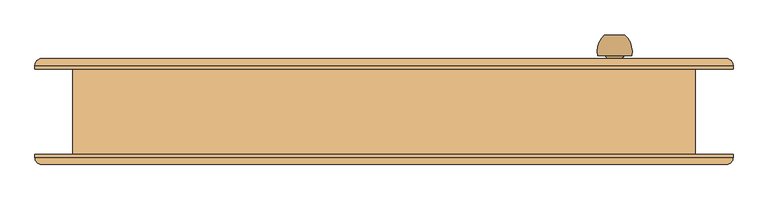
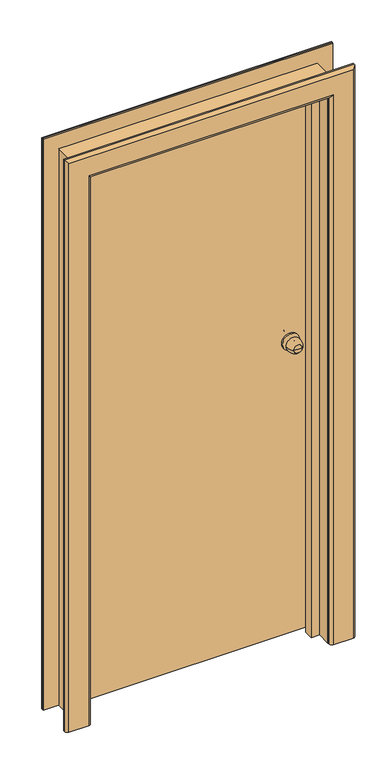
"""IFC4 building model written with IfcOpenShell, lengths in millimetres: door geometry, Внутренняя дверь 1-Навесная - 6629-88 : ДГ 21-9Л  ГОСТ 6629-88."""

from ifc_helpers import new_model, si_unit, point, frame, origin, place, context, project, spatial, polyline, circle_curve, ellipse_curve, trimmed, outline, extrude, faceted_brep, source, transform, mapped, element, save
from ifc_brep_helpers import plane_surface, cylinder_surface, revolved_surface, advanced_brep


def door_6515f566(model_context):
    return source(origin(), model_context, "Body", "SolidModel", [
        advanced_brep(
        [(352.0, 112.5, 1100.0), (337.0, 112.5, 1100.0), (322.0, 112.5, 1100.0), (312.0, 82.5, 1100.0), (362.0, 82.5, 1100.0), (319.0, 82.5, 1100.0), (355.0, 82.5, 1100.0), (327.0, 74.5, 1100.0), (347.0, 74.5, 1100.0), (327.0, 68.5, 1100.0), (347.0, 68.5, 1100.0), (307.0, 68.5, 1100.0), (367.0, 68.5, 1100.0), (307.0, 62.5, 1100.0), (367.0, 62.5, 1100.0)],
        [
            (0, 1),
            (1, 2),
            (2, 0, circle_curve(frame((337.0, 112.5, 1100.0), z_axis=(0.0, 1.0, 0.0), x_axis=(-1.0, 0.0, 0.0)), 15.0)),
            (0, 2, circle_curve(frame((337.0, 112.5, 1100.0), z_axis=(0.0, 1.0, 0.0), x_axis=(-1.0, 0.0, 0.0)), 15.0)),
            (2, 3, circle_curve(frame((346.6226265, 87.6257912, 1100.0), z_axis=(0.0, 0.0, 1.0), x_axis=(1.0, 0.0, 0.0)), 35.0)),
            (3, 4, circle_curve(frame((337.0, 82.5, 1100.0), z_axis=(0.0, 1.0, 0.0), x_axis=(-1.0, 0.0, 0.0)), 25.0)),
            (4, 0, circle_curve(frame((327.3773735, 87.6257912, 1100.0), z_axis=(0.0, 0.0, 1.0), x_axis=(-1.0, 0.0, 0.0)), 35.0)),
            (4, 3, circle_curve(frame((337.0, 82.5, 1100.0), z_axis=(0.0, 1.0, 0.0), x_axis=(-1.0, 0.0, 0.0)), 25.0)),
            (3, 5),
            (5, 6, circle_curve(frame((337.0, 82.5, 1100.0), z_axis=(0.0, 1.0, 0.0), x_axis=(-1.0, 0.0, 0.0)), 18.0)),
            (6, 4),
            (6, 5, circle_curve(frame((337.0, 82.5, 1100.0), z_axis=(0.0, 1.0, 0.0), x_axis=(-1.0, 0.0, 0.0)), 18.0)),
            (5, 7, circle_curve(frame((319.0, 74.5, 1100.0), z_axis=(0.0, 0.0, -1.0), x_axis=(1.0, 0.0, 0.0)), 8.0)),
            (7, 8, circle_curve(frame((337.0, 74.5, 1100.0), z_axis=(0.0, 1.0, 0.0), x_axis=(-1.0, 0.0, 0.0)), 10.0)),
            (8, 6, circle_curve(frame((355.0, 74.5, 1100.0), z_axis=(0.0, 0.0, -1.0), x_axis=(-1.0, 0.0, 0.0)), 8.0)),
            (8, 7, circle_curve(frame((337.0, 74.5, 1100.0), z_axis=(0.0, 1.0, 0.0), x_axis=(-1.0, 0.0, 0.0)), 10.0)),
            (7, 9),
            (9, 10, circle_curve(frame((337.0, 68.5, 1100.0), z_axis=(0.0, 1.0, 0.0), x_axis=(-1.0, 0.0, 0.0)), 10.0)),
            (10, 8),
            (10, 9, circle_curve(frame((337.0, 68.5, 1100.0), z_axis=(0.0, 1.0, 0.0), x_axis=(-1.0, 0.0, 0.0)), 10.0)),
            (11, 12, circle_curve(frame((337.0, 68.5, 1100.0), z_axis=(0.0, 1.0, 0.0), x_axis=(1.0, 0.0, 0.0)), 30.0)),
            (12, 11, circle_curve(frame((337.0, 68.5, 1100.0), z_axis=(0.0, 1.0, 0.0), x_axis=(1.0, 0.0, 0.0)), 30.0)),
            (13, 14, circle_curve(frame((337.0, 62.5, 1100.0), z_axis=(0.0, -1.0, 0.0), x_axis=(1.0, 0.0, 0.0)), 30.0)),
            (14, 13, circle_curve(frame((337.0, 62.5, 1100.0), z_axis=(0.0, -1.0, 0.0), x_axis=(1.0, 0.0, 0.0)), 30.0)),
            (12, 14),
            (13, 11),
        ],
        [
            plane_surface(frame((337.0, 112.5, 1100.0), z_axis=(0.0, 1.0, 0.0), x_axis=(-1.0, 0.0, 0.0))),
            revolved_surface(trimmed(ellipse_curve(frame((346.6226265, 87.6257912, 1100.0), z_axis=(0.0, 0.0, 1.0), x_axis=(1.0, 0.0, 0.0)), 35.0, 35.0), [point((322.0, 112.5, 1100.0))], [point((312.0, 82.5, 1100.0))], True, "CARTESIAN"), (337.0, 142.5, 1100.0), (0.0, -1.0, 0.0)),
            plane_surface(frame((337.0, 82.5, 1100.0), z_axis=(0.0, -1.0, 0.0), x_axis=(-1.0, 0.0, 0.0))),
            revolved_surface(trimmed(ellipse_curve(frame((319.0, 74.5, 1100.0), z_axis=(0.0, 0.0, -1.0), x_axis=(1.0, 0.0, 0.0)), 8.0, 8.0), [point((319.0, 82.5, 1100.0))], [point((327.0, 74.5, 1100.0))], True, "CARTESIAN"), (337.0, 142.5, 1100.0), (0.0, -1.0, 0.0)),
            cylinder_surface(frame((337.0, 142.5, 1100.0), z_axis=(0.0, -1.0, 0.0), x_axis=(-1.0, 0.0, 0.0)), 10.0),
            plane_surface(frame((367.0, 68.5, 1100.0), z_axis=(0.0, 1.0, 0.0), x_axis=(0.0, 0.0, 1.0))),
            plane_surface(frame((367.0, 62.5, 1100.0), z_axis=(0.0, -1.0, 0.0), x_axis=(0.0, 0.0, -1.0))),
            cylinder_surface(frame((337.0, 62.5, 1100.0), z_axis=(0.0, 1.0, 0.0), x_axis=(1.0, 0.0, 0.0)), 30.0),
        ],
        [
            (0, [[1, 2, 3]]),
            (0, [[-1, 4, -2]]),
            (1, [[5, 6, 7, -3]]),
            (1, [[-7, 8, -5, -4]]),
            (2, [[9, 10, 11, -6]]),
            (2, [[-11, 12, -9, -8]]),
            (3, [[13, 14, 15, -10]]),
            (3, [[-15, 16, -13, -12]]),
            (4, [[17, 18, 19, -14]]),
            (4, [[-19, 20, -17, -16]]),
            (5, [[21, 22], [-20, -18]]),
            (6, [[23, 24]]),
            (7, [[25, -23, 26, -22]]),
            (7, [[-26, -24, -25, -21]]),
        ],
    ),
        advanced_brep(
        [(322.0, -24.5, 1100.0), (337.0, -24.5, 1100.0), (352.0, -24.5, 1100.0), (362.0, 5.5, 1100.0), (312.0, 5.5, 1100.0), (355.0, 5.5, 1100.0), (319.0, 5.5, 1100.0), (347.0, 13.5, 1100.0), (327.0, 13.5, 1100.0), (347.0, 19.5, 1100.0), (327.0, 19.5, 1100.0), (367.0, 19.5, 1100.0), (307.0, 19.5, 1100.0), (367.0, 25.5, 1100.0), (307.0, 25.5, 1100.0)],
        [
            (0, 1),
            (1, 2),
            (2, 0, circle_curve(frame((337.0, -24.5, 1100.0), z_axis=(0.0, -1.0, 0.0), x_axis=(1.0, 0.0, 0.0)), 15.0)),
            (0, 2, circle_curve(frame((337.0, -24.5, 1100.0), z_axis=(0.0, -1.0, 0.0), x_axis=(1.0, 0.0, 0.0)), 15.0)),
            (2, 3, circle_curve(frame((327.3773735, 0.3742088, 1100.0), z_axis=(0.0, 0.0, 1.0), x_axis=(-1.0, 0.0, 0.0)), 35.0)),
            (3, 4, circle_curve(frame((337.0, 5.5, 1100.0), z_axis=(0.0, -1.0, 0.0), x_axis=(1.0, 0.0, 0.0)), 25.0)),
            (4, 0, circle_curve(frame((346.6226265, 0.3742088, 1100.0), z_axis=(0.0, 0.0, 1.0), x_axis=(1.0, 0.0, 0.0)), 35.0)),
            (4, 3, circle_curve(frame((337.0, 5.5, 1100.0), z_axis=(0.0, -1.0, 0.0), x_axis=(1.0, 0.0, 0.0)), 25.0)),
            (3, 5),
            (5, 6, circle_curve(frame((337.0, 5.5, 1100.0), z_axis=(0.0, -1.0, 0.0), x_axis=(1.0, 0.0, 0.0)), 18.0)),
            (6, 4),
            (6, 5, circle_curve(frame((337.0, 5.5, 1100.0), z_axis=(0.0, -1.0, 0.0), x_axis=(1.0, 0.0, 0.0)), 18.0)),
            (5, 7, circle_curve(frame((355.0, 13.5, 1100.0), z_axis=(0.0, 0.0, -1.0), x_axis=(-1.0, 0.0, 0.0)), 8.0)),
            (7, 8, circle_curve(frame((337.0, 13.5, 1100.0), z_axis=(0.0, -1.0, 0.0), x_axis=(1.0, 0.0, 0.0)), 10.0)),
            (8, 6, circle_curve(frame((319.0, 13.5, 1100.0), z_axis=(0.0, 0.0, -1.0), x_axis=(1.0, 0.0, 0.0)), 8.0)),
            (8, 7, circle_curve(frame((337.0, 13.5, 1100.0), z_axis=(0.0, -1.0, 0.0), x_axis=(1.0, 0.0, 0.0)), 10.0)),
            (7, 9),
            (9, 10, circle_curve(frame((337.0, 19.5, 1100.0), z_axis=(0.0, -1.0, 0.0), x_axis=(1.0, 0.0, 0.0)), 10.0)),
            (10, 8),
            (10, 9, circle_curve(frame((337.0, 19.5, 1100.0), z_axis=(0.0, -1.0, 0.0), x_axis=(1.0, 0.0, 0.0)), 10.0)),
            (11, 12, circle_curve(frame((337.0, 19.5, 1100.0), z_axis=(0.0, -1.0, 0.0), x_axis=(-1.0, 0.0, 0.0)), 30.0)),
            (12, 11, circle_curve(frame((337.0, 19.5, 1100.0), z_axis=(0.0, -1.0, 0.0), x_axis=(-1.0, 0.0, 0.0)), 30.0)),
            (13, 14, circle_curve(frame((337.0, 25.5, 1100.0), z_axis=(0.0, 1.0, 0.0), x_axis=(-1.0, 0.0, 0.0)), 30.0)),
            (14, 13, circle_curve(frame((337.0, 25.5, 1100.0), z_axis=(0.0, 1.0, 0.0), x_axis=(-1.0, 0.0, 0.0)), 30.0)),
            (12, 14),
            (13, 11),
        ],
        [
            plane_surface(frame((337.0, -24.5, 1100.0), z_axis=(0.0, -1.0, 0.0), x_axis=(1.0, 0.0, 0.0))),
            revolved_surface(trimmed(ellipse_curve(frame((327.3773735, 0.3742088, 1100.0), z_axis=(0.0, 0.0, 1.0), x_axis=(-1.0, 0.0, 0.0)), 35.0, 35.0), [point((352.0, -24.5, 1100.0))], [point((362.0, 5.5, 1100.0))], True, "CARTESIAN"), (337.0, -54.5, 1100.0), (0.0, 1.0, 0.0)),
            plane_surface(frame((337.0, 5.5, 1100.0), z_axis=(0.0, 1.0, 0.0), x_axis=(1.0, 0.0, 0.0))),
            revolved_surface(trimmed(ellipse_curve(frame((355.0, 13.5, 1100.0), z_axis=(0.0, 0.0, -1.0), x_axis=(-1.0, 0.0, 0.0)), 8.0, 8.0), [point((355.0, 5.5, 1100.0))], [point((347.0, 13.5, 1100.0))], True, "CARTESIAN"), (337.0, -54.5, 1100.0), (0.0, 1.0, 0.0)),
            cylinder_surface(frame((337.0, -54.5, 1100.0), z_axis=(0.0, 1.0, 0.0), x_axis=(1.0, 0.0, 0.0)), 10.0),
            plane_surface(frame((307.0, 19.5, 1100.0), z_axis=(0.0, -1.0, 0.0), x_axis=(0.0, 0.0, 1.0))),
            plane_surface(frame((307.0, 25.5, 1100.0), z_axis=(0.0, 1.0, 0.0), x_axis=(0.0, 0.0, -1.0))),
            cylinder_surface(frame((337.0, 25.5, 1100.0), z_axis=(0.0, -1.0, 0.0), x_axis=(-1.0, 0.0, 0.0)), 30.0),
        ],
        [
            (0, [[1, 2, 3]]),
            (0, [[-1, 4, -2]]),
            (1, [[5, 6, 7, -3]]),
            (1, [[-7, 8, -5, -4]]),
            (2, [[9, 10, 11, -6]]),
            (2, [[-11, 12, -9, -8]]),
            (3, [[13, 14, 15, -10]]),
            (3, [[-15, 16, -13, -12]]),
            (4, [[17, 18, 19, -14]]),
            (4, [[-19, 20, -17, -16]]),
            (5, [[21, 22], [-20, -18]]),
            (6, [[23, 24]]),
            (7, [[25, -23, 26, -22]]),
            (7, [[-26, -24, -25, -21]]),
        ],
    ),
        extrude(outline(polyline([(0.0, 435.0), (2050.0, 435.0), (2050.0, -435.0), (0.0, -435.0), (0.0, -420.0), (2035.0, -420.0), (2035.0, 420.0), (0.0, 420.0), (0.0, 435.0)])), frame((0.0, -62.5, 0.0), z_axis=(0.0, 1.0, 0.0), x_axis=(0.0, 0.0, 1.0)), (0.0, 0.0, 1.0), 51.0),
        advanced_brep(
        [(-510.0, 62.5, 0.0), (-510.0, 67.5, 0.0), (-500.0, 77.5, 0.0), (-430.0, 77.5, 0.0), (-420.0, 67.5, 0.0), (-420.0, 62.5, 0.0), (-420.0, 62.5, 2035.0), (420.0, 62.5, 2035.0), (420.0, 62.5, 0.0), (510.0, 62.5, 0.0), (510.0, 62.5, 2125.0), (-510.0, 62.5, 2125.0), (-420.0, 67.5, 2035.0), (-430.0, 77.5, 2045.0), (-500.0, 77.5, 2115.0), (500.0, 77.5, 2115.0), (500.0, 77.5, 0.0), (430.0, 77.5, 0.0), (430.0, 77.5, 2045.0), (-510.0, 67.5, 2125.0), (510.0, 67.5, 0.0), (510.0, 67.5, 2125.0), (420.0, 67.5, 0.0), (420.0, 67.5, 2035.0)],
        [
            (0, 1),
            (1, 2, circle_curve(frame((-500.0, 67.5, 0.0), z_axis=(0.0, 0.0, -1.0), x_axis=(-1.0, 0.0, 0.0)), 10.0)),
            (2, 3),
            (3, 4, circle_curve(frame((-430.0, 67.5, 0.0), z_axis=(0.0, 0.0, -1.0), x_axis=(-1.0, 0.0, 0.0)), 10.0)),
            (4, 5),
            (5, 0),
            (5, 6),
            (6, 7),
            (7, 8),
            (8, 9),
            (9, 10),
            (10, 11),
            (11, 0),
            (4, 12),
            (12, 6),
            (3, 13),
            (13, 12, ellipse_curve(frame((-430.0, 67.5, 2045.0), z_axis=(-0.7071067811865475, 0.0, -0.7071067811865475), x_axis=(0.7071067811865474, 0.0, -0.7071067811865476)), 14.1421356, 10.0)),
            (2, 14),
            (14, 15),
            (15, 16),
            (16, 17),
            (17, 18),
            (18, 13),
            (1, 19),
            (19, 14, ellipse_curve(frame((-500.0, 67.5, 2115.0), z_axis=(-0.7071067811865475, 0.0, -0.7071067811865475), x_axis=(0.7071067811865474, 0.0, -0.7071067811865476)), 14.1421356, 10.0)),
            (11, 19),
            (9, 20),
            (20, 21),
            (21, 10),
            (8, 22),
            (22, 17, circle_curve(frame((430.0, 67.5, 0.0), z_axis=(0.0, 0.0, -1.0), x_axis=(1.0, 0.0, 0.0)), 10.0)),
            (16, 20, circle_curve(frame((500.0, 67.5, 0.0), z_axis=(0.0, 0.0, -1.0), x_axis=(1.0, 0.0, 0.0)), 10.0)),
            (23, 22),
            (7, 23),
            (23, 18, ellipse_curve(frame((430.0, 67.5, 2045.0), z_axis=(0.7071067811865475, 0.0, -0.7071067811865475), x_axis=(0.7071067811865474, 0.0, 0.7071067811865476)), 14.1421356, 10.0)),
            (15, 21, ellipse_curve(frame((500.0, 67.5, 2115.0), z_axis=(0.7071067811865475, 0.0, -0.7071067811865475), x_axis=(0.7071067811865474, 0.0, 0.7071067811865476)), 14.1421356, 10.0)),
            (12, 23),
            (19, 21),
        ],
        [
            plane_surface(frame((-455.0, 62.5, 0.0), z_axis=(0.0, 0.0, -1.0), x_axis=(0.0, -1.0, 0.0))),
            plane_surface(frame((-510.0, 62.5, 0.0), z_axis=(0.0, -1.0, 0.0), x_axis=(0.0, 0.0, 1.0))),
            plane_surface(frame((-420.0, 62.5, 0.0), z_axis=(1.0, 0.0, 0.0), x_axis=(0.0, 0.0, 1.0))),
            cylinder_surface(frame((-430.0, 67.5, 0.0), z_axis=(0.0, 0.0, -1.0), x_axis=(-1.0, 0.0, 0.0)), 10.0),
            plane_surface(frame((-430.0, 77.5, 0.0), z_axis=(0.0, 1.0, 0.0), x_axis=(0.0, 0.0, 1.0))),
            cylinder_surface(frame((-500.0, 67.5, 0.0), z_axis=(0.0, 0.0, -1.0), x_axis=(-1.0, 0.0, 0.0)), 10.0),
            plane_surface(frame((-510.0, 67.5, 0.0), z_axis=(-1.0, 0.0, 0.0), x_axis=(0.0, 0.0, 1.0))),
            plane_surface(frame((510.0, 67.5, 2125.0), z_axis=(1.0, 0.0, 0.0), x_axis=(0.0, 0.0, -1.0))),
            plane_surface(frame((455.0, 62.5, 0.0), z_axis=(0.0, 0.0, -1.0), x_axis=(0.0, -1.0, 0.0))),
            plane_surface(frame((420.0, 62.5, 2035.0), z_axis=(-1.0, 0.0, 0.0), x_axis=(0.0, 0.0, -1.0))),
            cylinder_surface(frame((430.0, 67.5, 2070.0), z_axis=(0.0, 0.0, 1.0), x_axis=(1.0, 0.0, 0.0)), 10.0),
            cylinder_surface(frame((500.0, 67.5, 2070.0), z_axis=(0.0, 0.0, 1.0), x_axis=(1.0, 0.0, 0.0)), 10.0),
            plane_surface(frame((-420.0, 62.5, 2035.0), z_axis=(0.0, 0.0, -1.0), x_axis=(1.0, 0.0, 0.0))),
            cylinder_surface(frame((-455.0, 67.5, 2045.0), z_axis=(-1.0, 0.0, 0.0), x_axis=(0.0, 0.0, 1.0)), 10.0),
            cylinder_surface(frame((-455.0, 67.5, 2115.0), z_axis=(-1.0, 0.0, 0.0), x_axis=(0.0, 0.0, 1.0)), 10.0),
            plane_surface(frame((-510.0, 67.5, 2125.0), z_axis=(0.0, 0.0, 1.0), x_axis=(1.0, 0.0, 0.0))),
        ],
        [
            (0, [[1, 2, 3, 4, 5, 6]]),
            (1, [[7, 8, 9, 10, 11, 12, 13, -6]]),
            (2, [[14, 15, -7, -5]]),
            (3, [[16, 17, -14, -4]]),
            (4, [[18, 19, 20, 21, 22, 23, -16, -3]]),
            (5, [[24, 25, -18, -2]]),
            (6, [[-13, 26, -24, -1]]),
            (7, [[-11, 27, 28, 29]]),
            (8, [[-10, 30, 31, -21, 32, -27]]),
            (9, [[33, -30, -9, 34]]),
            (10, [[-22, -31, -33, 35]]),
            (11, [[-28, -32, -20, 36]]),
            (12, [[37, -34, -8, -15]]),
            (13, [[-23, -35, -37, -17]]),
            (14, [[38, -36, -19, -25]]),
            (15, [[-12, -29, -38, -26]]),
        ],
    ),
        advanced_brep(
        [(510.0, -62.5, 0.0), (510.0, -67.5, 0.0), (500.0, -77.5, 0.0), (430.0, -77.5, 0.0), (420.0, -67.5, 0.0), (420.0, -62.5, 0.0), (420.0, -62.5, 2035.0), (-420.0, -62.5, 2035.0), (-420.0, -62.5, 0.0), (-510.0, -62.5, 0.0), (-510.0, -62.5, 2125.0), (510.0, -62.5, 2125.0), (420.0, -67.5, 2035.0), (430.0, -77.5, 2045.0), (500.0, -77.5, 2115.0), (-500.0, -77.5, 2115.0), (-500.0, -77.5, 0.0), (-430.0, -77.5, 0.0), (-430.0, -77.5, 2045.0), (510.0, -67.5, 2125.0), (-510.0, -67.5, 0.0), (-510.0, -67.5, 2125.0), (-420.0, -67.5, 0.0), (-420.0, -67.5, 2035.0)],
        [
            (0, 1),
            (1, 2, circle_curve(frame((500.0, -67.5, 0.0), z_axis=(0.0, 0.0, -1.0), x_axis=(1.0, 0.0, 0.0)), 10.0)),
            (2, 3),
            (3, 4, circle_curve(frame((430.0, -67.5, 0.0), z_axis=(0.0, 0.0, -1.0), x_axis=(1.0, 0.0, 0.0)), 10.0)),
            (4, 5),
            (5, 0),
            (5, 6),
            (6, 7),
            (7, 8),
            (8, 9),
            (9, 10),
            (10, 11),
            (11, 0),
            (4, 12),
            (12, 6),
            (3, 13),
            (13, 12, ellipse_curve(frame((430.0, -67.5, 2045.0), z_axis=(0.7071067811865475, 0.0, -0.7071067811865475), x_axis=(-0.7071067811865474, 0.0, -0.7071067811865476)), 14.1421356, 10.0)),
            (2, 14),
            (14, 15),
            (15, 16),
            (16, 17),
            (17, 18),
            (18, 13),
            (1, 19),
            (19, 14, ellipse_curve(frame((500.0, -67.5, 2115.0), z_axis=(0.7071067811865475, 0.0, -0.7071067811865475), x_axis=(-0.7071067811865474, 0.0, -0.7071067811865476)), 14.1421356, 10.0)),
            (11, 19),
            (9, 20),
            (20, 21),
            (21, 10),
            (8, 22),
            (22, 17, circle_curve(frame((-430.0, -67.5, 0.0), z_axis=(0.0, 0.0, -1.0), x_axis=(-1.0, 0.0, 0.0)), 10.0)),
            (16, 20, circle_curve(frame((-500.0, -67.5, 0.0), z_axis=(0.0, 0.0, -1.0), x_axis=(-1.0, 0.0, 0.0)), 10.0)),
            (23, 22),
            (7, 23),
            (23, 18, ellipse_curve(frame((-430.0, -67.5, 2045.0), z_axis=(-0.7071067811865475, 0.0, -0.7071067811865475), x_axis=(-0.7071067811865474, 0.0, 0.7071067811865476)), 14.1421356, 10.0)),
            (15, 21, ellipse_curve(frame((-500.0, -67.5, 2115.0), z_axis=(-0.7071067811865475, 0.0, -0.7071067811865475), x_axis=(-0.7071067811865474, 0.0, 0.7071067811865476)), 14.1421356, 10.0)),
            (12, 23),
            (19, 21),
        ],
        [
            plane_surface(frame((455.0, -62.5, 0.0), z_axis=(0.0, 0.0, -1.0), x_axis=(0.0, 1.0, 0.0))),
            plane_surface(frame((510.0, -62.5, 0.0), z_axis=(0.0, 1.0, 0.0), x_axis=(0.0, 0.0, 1.0))),
            plane_surface(frame((420.0, -62.5, 0.0), z_axis=(-1.0, 0.0, 0.0), x_axis=(0.0, 0.0, 1.0))),
            cylinder_surface(frame((430.0, -67.5, 0.0), z_axis=(0.0, 0.0, -1.0), x_axis=(1.0, 0.0, 0.0)), 10.0),
            plane_surface(frame((430.0, -77.5, 0.0), z_axis=(0.0, -1.0, 0.0), x_axis=(0.0, 0.0, 1.0))),
            cylinder_surface(frame((500.0, -67.5, 0.0), z_axis=(0.0, 0.0, -1.0), x_axis=(1.0, 0.0, 0.0)), 10.0),
            plane_surface(frame((510.0, -67.5, 0.0), z_axis=(1.0, 0.0, 0.0), x_axis=(0.0, 0.0, 1.0))),
            plane_surface(frame((-510.0, -67.5, 2125.0), z_axis=(-1.0, 0.0, 0.0), x_axis=(0.0, 0.0, -1.0))),
            plane_surface(frame((-455.0, -62.5, 0.0), z_axis=(0.0, 0.0, -1.0), x_axis=(0.0, 1.0, 0.0))),
            plane_surface(frame((-420.0, -62.5, 2035.0), z_axis=(1.0, 0.0, 0.0), x_axis=(0.0, 0.0, -1.0))),
            cylinder_surface(frame((-430.0, -67.5, 2070.0), z_axis=(0.0, 0.0, 1.0), x_axis=(-1.0, 0.0, 0.0)), 10.0),
            cylinder_surface(frame((-500.0, -67.5, 2070.0), z_axis=(0.0, 0.0, 1.0), x_axis=(-1.0, 0.0, 0.0)), 10.0),
            plane_surface(frame((420.0, -62.5, 2035.0), z_axis=(0.0, 0.0, -1.0), x_axis=(-1.0, 0.0, 0.0))),
            cylinder_surface(frame((455.0, -67.5, 2045.0), z_axis=(1.0, 0.0, 0.0), x_axis=(0.0, 0.0, 1.0)), 10.0),
            cylinder_surface(frame((455.0, -67.5, 2115.0), z_axis=(1.0, 0.0, 0.0), x_axis=(0.0, 0.0, 1.0)), 10.0),
            plane_surface(frame((510.0, -67.5, 2125.0), z_axis=(0.0, 0.0, 1.0), x_axis=(-1.0, 0.0, 0.0))),
        ],
        [
            (0, [[1, 2, 3, 4, 5, 6]]),
            (1, [[7, 8, 9, 10, 11, 12, 13, -6]]),
            (2, [[14, 15, -7, -5]]),
            (3, [[16, 17, -14, -4]]),
            (4, [[18, 19, 20, 21, 22, 23, -16, -3]]),
            (5, [[24, 25, -18, -2]]),
            (6, [[-13, 26, -24, -1]]),
            (7, [[-11, 27, 28, 29]]),
            (8, [[-10, 30, 31, -21, 32, -27]]),
            (9, [[33, -30, -9, 34]]),
            (10, [[-22, -31, -33, 35]]),
            (11, [[-28, -32, -20, 36]]),
            (12, [[37, -34, -8, -15]]),
            (13, [[-23, -35, -37, -17]]),
            (14, [[38, -36, -19, -25]]),
            (15, [[-12, -29, -38, -26]]),
        ],
    ),
        faceted_brep([(390.0, -11.5, 0.0), (390.0, 20.5, 0.0), (402.0, 20.5, 0.0), (402.0, 62.5, 0.0), (435.0, 62.5, 0.0), (435.0, -11.5, 0.0), (435.0, -11.5, 2050.0), (-435.0, -11.5, 2050.0), (-435.0, -11.5, 0.0), (-390.0, -11.5, 0.0), (-390.0, -11.5, 2005.0), (390.0, -11.5, 2005.0), (435.0, 62.5, 2050.0), (402.0, 62.5, 2017.0), (-402.0, 62.5, 2017.0), (-402.0, 62.5, 0.0), (-435.0, 62.5, 0.0), (-435.0, 62.5, 2050.0), (402.0, 20.5, 2017.0), (390.0, 20.5, 2005.0), (-390.0, 20.5, 2005.0), (-390.0, 20.5, 0.0), (-402.0, 20.5, 0.0), (-402.0, 20.5, 2017.0)], [[[0, 1, 2, 3, 4, 5]], [[5, 6, 7, 8, 9, 10, 11, 0]], [[4, 12, 6, 5]], [[3, 13, 14, 15, 16, 17, 12, 4]], [[2, 18, 13, 3]], [[1, 19, 20, 21, 22, 23, 18, 2]], [[0, 11, 19, 1]], [[10, 9, 21, 20]], [[9, 8, 16, 15, 22, 21]], [[17, 16, 8, 7]], [[23, 22, 15, 14]], [[12, 17, 7, 6]], [[18, 23, 14, 13]], [[11, 10, 20, 19]]]),
        extrude(outline(polyline([(0.0, 455.0), (2070.0, 455.0), (2070.0, -455.0), (0.0, -455.0), (0.0, -435.0), (2050.0, -435.0), (2050.0, 435.0), (0.0, 435.0), (0.0, 455.0)])), frame((0.0, -62.5, 0.0), z_axis=(0.0, 1.0, 0.0), x_axis=(0.0, 0.0, 1.0)), (0.0, 0.0, 1.0), 125.0),
        extrude(outline(polyline([(397.0, 25.5), (-397.0, 25.5), (-397.0, 62.5), (397.0, 62.5), (397.0, 25.5)])), frame((0.0, 0.0, 15.0), z_axis=(0.0, 0.0, 1.0), x_axis=(1.0, 0.0, 0.0)), (0.0, 0.0, 1.0), 1997.0),
    ])


if __name__ == "__main__":
    model = new_model("IFC4")
    model_context = context("Model", 3, world=origin())
    ifc_project = project(units=[si_unit("LENGTHUNIT", "METRE", prefix="MILLI")], contexts=[model_context])
    site = spatial("IfcSite", under=ifc_project)
    building = spatial("IfcBuilding", under=site)
    placement = place(None, origin())
    door_shape = door_6515f566(model_context)
    element("IfcDoor", 1, ObjectType="Внутренняя дверь 1-Навесная - 6629-88 : ДГ 21-9Л  ГОСТ 6629-88", at=placement, inside=building, context=model_context, shape_type="MappedRepresentation", body=[
        mapped(door_shape, transform((0.0, 0.0, 0.0), x_axis=(1.0, 0.0, 0.0), y_axis=(0.0, 1.0, 0.0), z_axis=(0.0, 0.0, 1.0))),
    ])
    save(model, "model.ifc")
